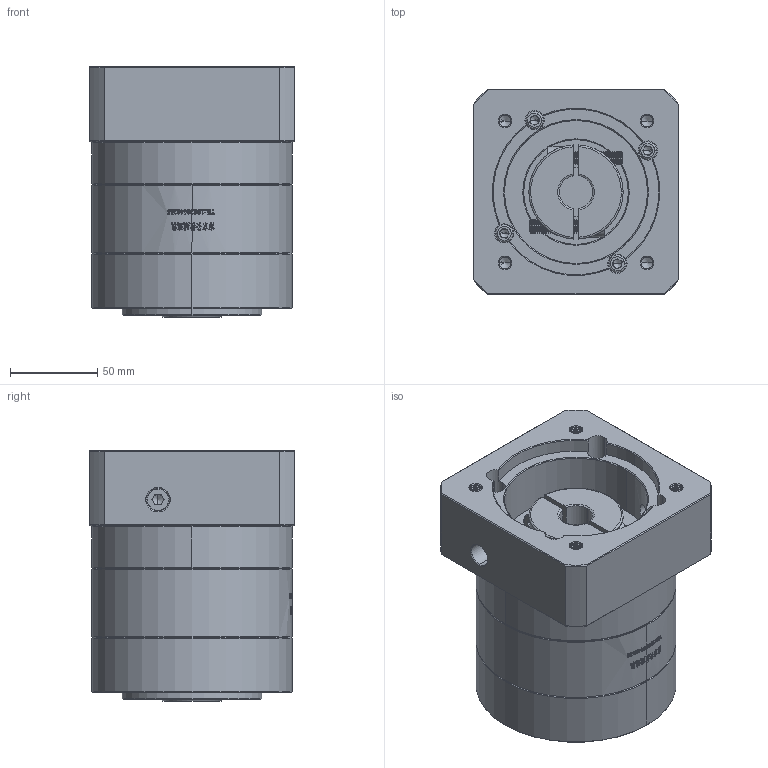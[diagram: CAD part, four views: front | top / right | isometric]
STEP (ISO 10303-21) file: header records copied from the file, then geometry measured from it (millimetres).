
FILE_DESCRIPTION (( 'STEP AP214' ), '1' );
FILE_NAME ('ZE120A-K25-L1-19-95-115-M8.step', '2023-03-09T06:31:31', ( '' ), ( '' ), 'SwSTEP 2.0', 'SolidWorks 2016', '' );
FILE_SCHEMA (( 'AUTOMOTIVE_DESIGN' ));
Length unit declared in the file: millimetre
Products named in the file (1): ZE120A-K25-L1-19-95-115-M8
Bounding box: 118 x 118 x 143.5 mm (x, y, z)
Volume: 1359792.5 mm3; surface area: 158310.1 mm2
Topology: 6 solids, 6 shells, 1995 faces, 5292 edges, 3390 vertices
Faces by surface type: plane 829, cylinder 494, bspline 344, cone 328
Entity records: 113925 total; most frequent: CARTESIAN_POINT 46881, ORIENTED_EDGE 10512, DIRECTION 7936, EDGE_CURVE 5256, VERTEX_POINT 3390, VECTOR 2758, LINE 2758, AXIS2_PLACEMENT_3D 2589
